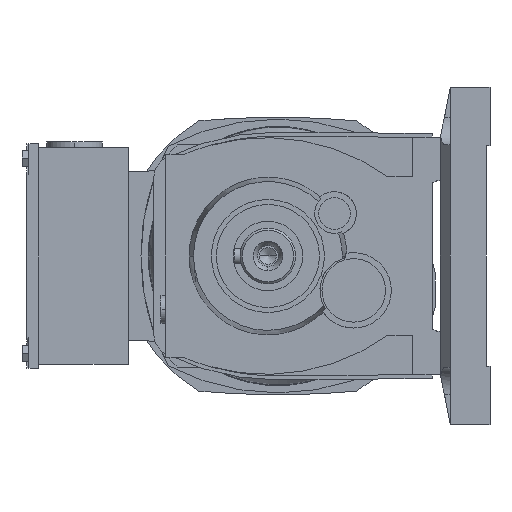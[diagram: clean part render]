
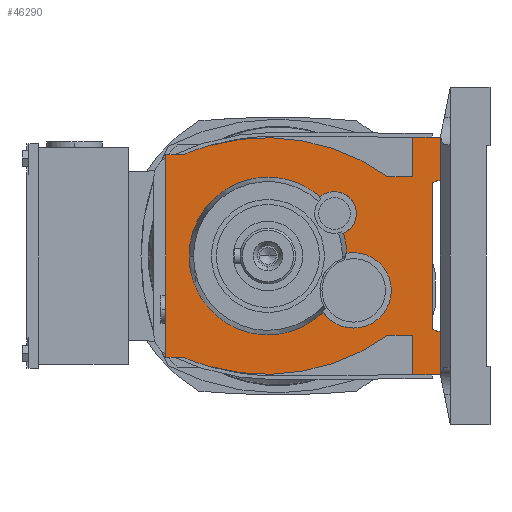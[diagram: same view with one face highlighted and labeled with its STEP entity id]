
A CAD part, left-side view. The second image highlights one B-rep face of the part: STEP entity #46290.
In plain terms, the highlighted planar face has unit normal (-1, 0, 0) as drawn and (0, 0, 1) by its records, which use the part's own axes.
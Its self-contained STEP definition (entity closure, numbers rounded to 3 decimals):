
#11530=CARTESIAN_POINT('',(40.,-73.,-71.));
#11540=VERTEX_POINT('',#11530);
#11570=CARTESIAN_POINT('',(40.,0.,-71.));
#11580=DIRECTION('',(0.,-1.,0.));
#11590=VECTOR('',#11580,1.);
#11600=LINE('',#11570,#11590);
#11610=CARTESIAN_POINT('',(40.,-60.421,-71.));
#11620=VERTEX_POINT('',#11610);
#11630=EDGE_CURVE('',#11620,#11540,#11600,.T.);
#11910=CARTESIAN_POINT('',(-38.,-87.,-71.));
#11920=VERTEX_POINT('',#11910);
#12090=CARTESIAN_POINT('',(38.,-87.,-71.));
#12100=VERTEX_POINT('',#12090);
#13050=CARTESIAN_POINT('',(60.,-87.,-71.));
#13060=VERTEX_POINT('',#13050);
#13090=CARTESIAN_POINT('',(60.,0.,-71.));
#13100=DIRECTION('',(0.,-1.,0.));
#13110=VECTOR('',#13100,1.);
#13120=LINE('',#13090,#13110);
#13130=CARTESIAN_POINT('',(60.,-73.,-71.));
#13140=VERTEX_POINT('',#13130);
#13150=EDGE_CURVE('',#13140,#13060,#13120,.T.);
#13420=CARTESIAN_POINT('',(-45.314,0.788,-71.));
#13430=DIRECTION('',(0.,0.,-1.));
#13440=DIRECTION('',(0.,-1.,0.));
#13450=AXIS2_PLACEMENT_3D('',#13420,#13430,#13440);
#13460=CIRCLE('',#13450,105.);
#13470=CARTESIAN_POINT('',(55.619,29.73,-71.));
#13480=VERTEX_POINT('',#13470);
#13490=EDGE_CURVE('',#13480,#11620,#13460,.T.);
#14160=CARTESIAN_POINT('',(-65.5,-5.,-71.));
#14170=DIRECTION('',(0.,0.,1.));
#14180=DIRECTION('',(0.,1.,0.));
#14190=AXIS2_PLACEMENT_3D('',#14160,#14170,#14180);
#14200=CIRCLE('',#14190,126.);
#14210=CARTESIAN_POINT('',(50.999,43.,-71.));
#14220=VERTEX_POINT('',#14210);
#14230=EDGE_CURVE('',#13480,#14220,#14200,.T.);
#17170=CARTESIAN_POINT('',(35.491,-73.,-71.));
#17180=DIRECTION('',(-1.,0.,0.));
#17190=VECTOR('',#17180,1.);
#17200=LINE('',#17170,#17190);
#17210=EDGE_CURVE('',#13140,#11540,#17200,.T.);
#17310=CARTESIAN_POINT('',(19.596,-0.416,-71.));
#17320=DIRECTION('',(-0.208,0.978,0.));
#17330=VECTOR('',#17320,1.);
#17340=LINE('',#17310,#17330);
#17350=CARTESIAN_POINT('',(37.575,-85.,-71.));
#17360=VERTEX_POINT('',#17350);
#17370=CARTESIAN_POINT('',(37.15,-83.,-71.));
#17380=VERTEX_POINT('',#17370);
#17390=EDGE_CURVE('',#17360,#17380,#17340,.T.);
#20090=CARTESIAN_POINT('',(38.,-85.,-71.));
#20100=VERTEX_POINT('',#20090);
#20130=CARTESIAN_POINT('',(38.,0.,-71.));
#20140=DIRECTION('',(0.,1.,0.));
#20150=VECTOR('',#20140,1.);
#20160=LINE('',#20130,#20150);
#20170=EDGE_CURVE('',#12100,#20100,#20160,.T.);
#20400=CARTESIAN_POINT('',(-37.15,-83.,-71.));
#20410=VERTEX_POINT('',#20400);
#20440=CARTESIAN_POINT('',(0.,-83.,-71.));
#20450=DIRECTION('',(-1.,0.,0.));
#20460=VECTOR('',#20450,1.);
#20470=LINE('',#20440,#20460);
#20480=EDGE_CURVE('',#17380,#20410,#20470,.T.);
#30590=CARTESIAN_POINT('',(29.754,-26.395,-71.));
#30600=VERTEX_POINT('',#30590);
#30810=CARTESIAN_POINT('',(0.,39.775,-71.));
#30820=VERTEX_POINT('',#30810);
#30850=CARTESIAN_POINT('',(0.,0.,-71.));
#30860=DIRECTION('',(0.,0.,-1.));
#30870=DIRECTION('',(0.,-1.,0.));
#30880=AXIS2_PLACEMENT_3D('',#30850,#30860,#30870);
#30890=CIRCLE('',#30880,39.775);
#30900=EDGE_CURVE('',#30820,#30600,#30890,.T.);
#31710=CARTESIAN_POINT('',(1.34,-39.752,-71.));
#31720=VERTEX_POINT('',#31710);
#31750=CARTESIAN_POINT('',(-17.334,-43.256,-71.));
#31760=DIRECTION('',(0.,0.,1.));
#31770=DIRECTION('',(1.,0.,0.));
#31780=AXIS2_PLACEMENT_3D('',#31750,#31760,#31770);
#31790=CIRCLE('',#31780,19.);
#31800=CARTESIAN_POINT('',(1.666,-43.256,-71.));
#31810=VERTEX_POINT('',#31800);
#31820=EDGE_CURVE('',#31810,#31720,#31790,.T.);
#32220=CARTESIAN_POINT('',(21.409,-33.562,-71.));
#32230=DIRECTION('',(0.,0.,1.));
#32240=DIRECTION('',(1.,0.,0.));
#32250=AXIS2_PLACEMENT_3D('',#32220,#32230,#32240);
#32260=CIRCLE('',#32250,11.);
#32270=CARTESIAN_POINT('',(32.409,-33.562,-71.));
#32280=VERTEX_POINT('',#32270);
#32290=EDGE_CURVE('',#32280,#30600,#32260,.T.);
#33160=CARTESIAN_POINT('',(-28.421,-27.826,-71.));
#33170=VERTEX_POINT('',#33160);
#33200=EDGE_CURVE('',#33170,#30820,#30890,.T.);
#33600=CARTESIAN_POINT('',(11.393,-38.108,-71.));
#33610=VERTEX_POINT('',#33600);
#33640=EDGE_CURVE('',#33610,#31720,#30890,.T.);
#33860=EDGE_CURVE('',#33610,#32280,#32260,.T.);
#33940=CARTESIAN_POINT('',(-36.334,-43.256,-71.));
#33950=VERTEX_POINT('',#33940);
#33960=EDGE_CURVE('',#33950,#31810,#31790,.T.);
#34090=EDGE_CURVE('',#33170,#33950,#31790,.T.);
#35830=CARTESIAN_POINT('',(-51.,43.,-71.));
#35840=VERTEX_POINT('',#35830);
#35870=CARTESIAN_POINT('',(35.491,43.,-71.));
#35880=DIRECTION('',(1.,0.,0.));
#35890=VECTOR('',#35880,1.);
#35900=LINE('',#35870,#35890);
#35910=CARTESIAN_POINT('',(-50.999,43.,-71.));
#35920=VERTEX_POINT('',#35910);
#35930=EDGE_CURVE('',#35840,#35920,#35900,.T.);
#36690=CARTESIAN_POINT('',(-40.,-60.421,-71.));
#36700=VERTEX_POINT('',#36690);
#36730=CARTESIAN_POINT('',(-40.,0.,-71.));
#36740=DIRECTION('',(0.,-1.,0.));
#36750=VECTOR('',#36740,1.);
#36760=LINE('',#36730,#36750);
#36770=CARTESIAN_POINT('',(-40.,-73.,-71.));
#36780=VERTEX_POINT('',#36770);
#36790=EDGE_CURVE('',#36700,#36780,#36760,.T.);
#37370=CARTESIAN_POINT('',(35.491,43.,-71.));
#37380=DIRECTION('',(1.,0.,0.));
#37390=VECTOR('',#37380,1.);
#37400=LINE('',#37370,#37390);
#37410=CARTESIAN_POINT('',(51.,43.,-71.));
#37420=VERTEX_POINT('',#37410);
#37430=EDGE_CURVE('',#14220,#37420,#37400,.T.);
#37810=CARTESIAN_POINT('',(-60.,-73.,-71.));
#37820=VERTEX_POINT('',#37810);
#37850=CARTESIAN_POINT('',(-60.,0.,-71.));
#37860=DIRECTION('',(0.,-1.,0.));
#37870=VECTOR('',#37860,1.);
#37880=LINE('',#37850,#37870);
#37890=CARTESIAN_POINT('',(-60.,-87.,-71.));
#37900=VERTEX_POINT('',#37890);
#37910=EDGE_CURVE('',#37820,#37900,#37880,.T.);
#38290=CARTESIAN_POINT('',(-55.619,29.73,-71.));
#38300=VERTEX_POINT('',#38290);
#38330=CARTESIAN_POINT('',(45.314,0.788,-71.));
#38340=DIRECTION('',(0.,0.,1.));
#38350=DIRECTION('',(0.,-1.,0.));
#38360=AXIS2_PLACEMENT_3D('',#38330,#38340,#38350);
#38370=CIRCLE('',#38360,105.);
#38380=EDGE_CURVE('',#38300,#36700,#38370,.T.);
#38660=CARTESIAN_POINT('',(65.5,-5.,-71.));
#38670=DIRECTION('',(0.,0.,-1.));
#38680=DIRECTION('',(0.,1.,0.));
#38690=AXIS2_PLACEMENT_3D('',#38660,#38670,#38680);
#38700=CIRCLE('',#38690,126.);
#38710=EDGE_CURVE('',#38300,#35920,#38700,.T.);
#40740=CARTESIAN_POINT('',(35.491,-73.,-71.));
#40750=DIRECTION('',(1.,0.,0.));
#40760=VECTOR('',#40750,1.);
#40770=LINE('',#40740,#40760);
#40780=EDGE_CURVE('',#37820,#36780,#40770,.T.);
#41200=CARTESIAN_POINT('',(-37.575,-85.,-71.));
#41210=VERTEX_POINT('',#41200);
#41240=CARTESIAN_POINT('',(-19.596,-0.416,-71.));
#41250=DIRECTION('',(0.208,0.978,0.));
#41260=VECTOR('',#41250,1.);
#41270=LINE('',#41240,#41260);
#41280=EDGE_CURVE('',#41210,#20410,#41270,.T.);
#45460=CARTESIAN_POINT('',(-51.,51.5,-71.));
#45470=DIRECTION('',(0.,0.,1.));
#45480=DIRECTION('',(-1.,0.,0.));
#45490=AXIS2_PLACEMENT_3D('',#45460,#45470,#45480);
#45500=PLANE('',#45490);
#45510=CARTESIAN_POINT('',(51.,51.5,-71.));
#45520=DIRECTION('',(0.,-1.,0.));
#45530=VECTOR('',#45520,1.);
#45540=LINE('',#45510,#45530);
#45550=CARTESIAN_POINT('',(51.,51.5,-71.));
#45560=VERTEX_POINT('',#45550);
#45570=EDGE_CURVE('',#45560,#37420,#45540,.T.);
#45580=ORIENTED_EDGE('',*,*,#45570,.F.);
#45590=ORIENTED_EDGE('',*,*,#37430,.T.);
#45600=ORIENTED_EDGE('',*,*,#14230,.T.);
#45610=ORIENTED_EDGE('',*,*,#13490,.F.);
#45620=ORIENTED_EDGE('',*,*,#11630,.F.);
#45630=ORIENTED_EDGE('',*,*,#17210,.T.);
#45640=ORIENTED_EDGE('',*,*,#13150,.F.);
#45650=CARTESIAN_POINT('',(0.,-87.,-71.));
#45660=DIRECTION('',(-1.,0.,0.));
#45670=VECTOR('',#45660,1.);
#45680=LINE('',#45650,#45670);
#45690=EDGE_CURVE('',#13060,#12100,#45680,.T.);
#45700=ORIENTED_EDGE('',*,*,#45690,.F.);
#45710=ORIENTED_EDGE('',*,*,#20170,.F.);
#45720=CARTESIAN_POINT('',(35.491,-85.,-71.));
#45730=DIRECTION('',(1.,0.,0.));
#45740=VECTOR('',#45730,1.);
#45750=LINE('',#45720,#45740);
#45760=EDGE_CURVE('',#17360,#20100,#45750,.T.);
#45770=ORIENTED_EDGE('',*,*,#45760,.T.);
#45780=ORIENTED_EDGE('',*,*,#17390,.F.);
#45790=ORIENTED_EDGE('',*,*,#20480,.F.);
#45800=ORIENTED_EDGE('',*,*,#41280,.T.);
#45810=CARTESIAN_POINT('',(-38.,-85.,-71.));
#45820=VERTEX_POINT('',#45810);
#45830=EDGE_CURVE('',#45820,#41210,#45750,.T.);
#45840=ORIENTED_EDGE('',*,*,#45830,.T.);
#45850=CARTESIAN_POINT('',(-38.,0.,-71.));
#45860=DIRECTION('',(0.,1.,0.));
#45870=VECTOR('',#45860,1.);
#45880=LINE('',#45850,#45870);
#45890=EDGE_CURVE('',#11920,#45820,#45880,.T.);
#45900=ORIENTED_EDGE('',*,*,#45890,.T.);
#45910=CARTESIAN_POINT('',(0.,-87.,-71.));
#45920=DIRECTION('',(1.,0.,0.));
#45930=VECTOR('',#45920,1.);
#45940=LINE('',#45910,#45930);
#45950=EDGE_CURVE('',#37900,#11920,#45940,.T.);
#45960=ORIENTED_EDGE('',*,*,#45950,.T.);
#45970=ORIENTED_EDGE('',*,*,#37910,.T.);
#45980=ORIENTED_EDGE('',*,*,#40780,.F.);
#45990=ORIENTED_EDGE('',*,*,#36790,.T.);
#46000=ORIENTED_EDGE('',*,*,#38380,.T.);
#46010=ORIENTED_EDGE('',*,*,#38710,.F.);
#46020=ORIENTED_EDGE('',*,*,#35930,.T.);
#46030=CARTESIAN_POINT('',(-51.,51.5,-71.));
#46040=DIRECTION('',(0.,-1.,0.));
#46050=VECTOR('',#46040,1.);
#46060=LINE('',#46030,#46050);
#46070=CARTESIAN_POINT('',(-51.,51.5,-71.));
#46080=VERTEX_POINT('',#46070);
#46090=EDGE_CURVE('',#46080,#35840,#46060,.T.);
#46100=ORIENTED_EDGE('',*,*,#46090,.T.);
#46110=CARTESIAN_POINT('',(-41.785,51.5,-71.));
#46120=DIRECTION('',(-1.,0.,0.));
#46130=VECTOR('',#46120,1.);
#46140=LINE('',#46110,#46130);
#46150=EDGE_CURVE('',#45560,#46080,#46140,.T.);
#46160=ORIENTED_EDGE('',*,*,#46150,.T.);
#46170=EDGE_LOOP('',(#46160,#46100,#46020,#46010,#46000,#45990,#45980,#45970,#45960,#45900,#45840,#45800,#45790,#45780,#45770,#45710,#45700,#45640,#45630,#45620,#45610,#45600,#45590,#45580));
#46180=FACE_OUTER_BOUND('',#46170,.T.);
#46190=ORIENTED_EDGE('',*,*,#33200,.T.);
#46200=ORIENTED_EDGE('',*,*,#34090,.F.);
#46210=ORIENTED_EDGE('',*,*,#33960,.F.);
#46220=ORIENTED_EDGE('',*,*,#31820,.F.);
#46230=ORIENTED_EDGE('',*,*,#33640,.T.);
#46240=ORIENTED_EDGE('',*,*,#33860,.F.);
#46250=ORIENTED_EDGE('',*,*,#32290,.F.);
#46260=ORIENTED_EDGE('',*,*,#30900,.T.);
#46270=EDGE_LOOP('',(#46260,#46250,#46240,#46230,#46220,#46210,#46200,#46190));
#46280=FACE_BOUND('',#46270,.T.);
#46290=ADVANCED_FACE('',(#46180,#46280),#45500,.T.);
